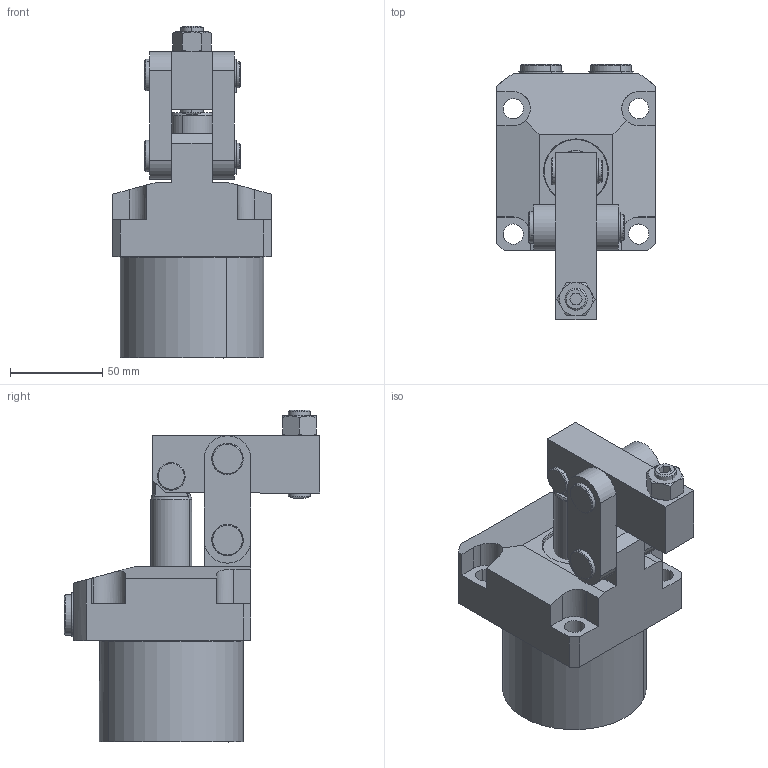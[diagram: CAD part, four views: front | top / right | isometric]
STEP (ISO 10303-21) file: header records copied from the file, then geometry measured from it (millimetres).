
FILE_DESCRIPTION(('CATIA V5 STEP Exchange'),'2;1');
FILE_NAME('\\Kjf-102\kjf_tc\Hydraulic_Clamp\Standard\HINGE_CLAMP\New_Hinge-Clamp\HGC-5636G\배포도면\CHGC-5678G-L.stp','2017-09-15T04:24:46+00:00',('none'),('none'),'CATIA Version 5 Release 19 SP 6 (IN-10)','CATIA V5 STEP AP214','none');
FILE_SCHEMA(('AUTOMOTIVE_DESIGN { 1 0 10303 214 1 1 1 1 }'));
Length unit declared in the file: millimetre
Products named in the file (1): CHGC-5678G-L
Bounding box: 86 x 138.5 x 180 mm (x, y, z)
Volume: 671734.2 mm3; surface area: 94656.6 mm2
Topology: 15 solids, 15 shells, 365 faces, 887 edges, 572 vertices
Faces by surface type: cylinder 150, plane 141, cone 64, torus 6, sphere 4
Entity records: 11319 total; most frequent: CARTESIAN_POINT 2900, ORIENTED_EDGE 1766, DIRECTION 1458, EDGE_CURVE 883, AXIS2_PLACEMENT_3D 673, VERTEX_POINT 572, VECTOR 447, LINE 447
